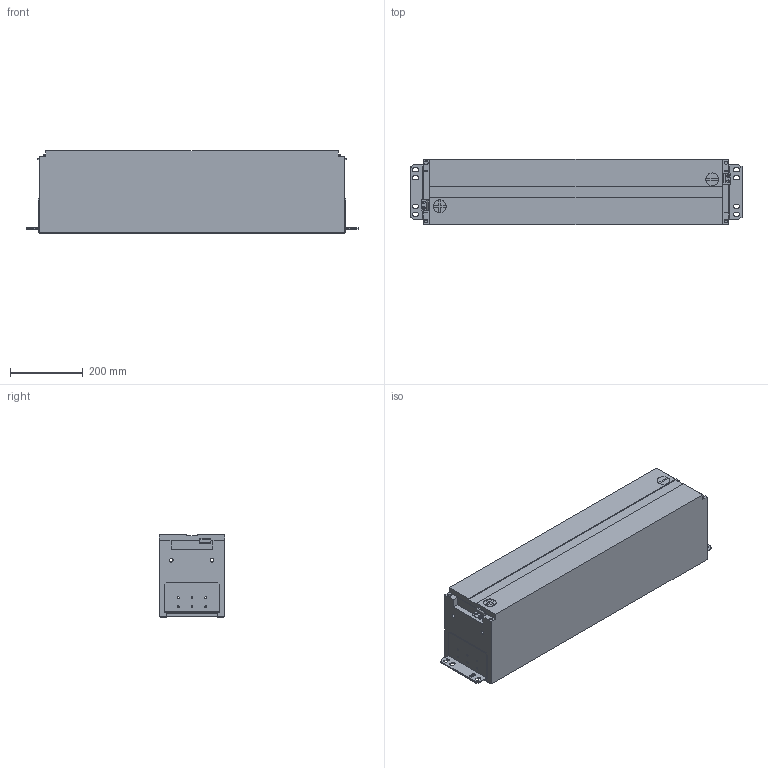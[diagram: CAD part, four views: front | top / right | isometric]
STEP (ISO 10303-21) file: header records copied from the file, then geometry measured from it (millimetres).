
FILE_DESCRIPTION(('CATIA V5 STEP Exchange'),'2;1');
FILE_NAME('E:\work\【02】CBB\二代、三代模组参数化模型\176Ah-11000-1P15S.stp','2017-02-16T07:24:03+00:00',('none'),('none'),'CATIA Version 5 Release 21 GA (IN-10)','CATIA V5 STEP AP214','none');
FILE_SCHEMA(('AUTOMOTIVE_DESIGN { 1 0 10303 214 1 1 1 1 }'));
Length unit declared in the file: millimetre
Products named in the file (1): N176-240M-11000-All
Bounding box: 909.6 x 180 x 226.6 mm (x, y, z)
Volume: 33495703.9 mm3; surface area: 1261977.1 mm2
Topology: 4 solids, 4 shells, 244 faces, 692 edges, 472 vertices
Faces by surface type: plane 158, cylinder 86
Entity records: 7662 total; most frequent: ORIENTED_EDGE 1368, CARTESIAN_POINT 1350, DIRECTION 1062, EDGE_CURVE 684, VECTOR 520, LINE 520, VERTEX_POINT 456, AXIS2_PLACEMENT_3D 358
